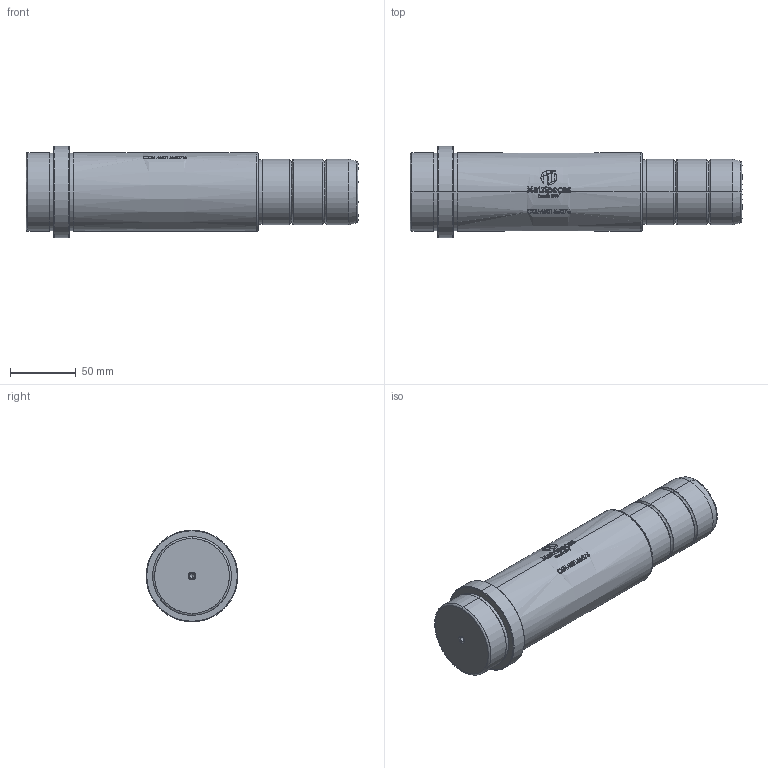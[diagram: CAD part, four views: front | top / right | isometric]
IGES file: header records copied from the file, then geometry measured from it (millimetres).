
Start section: SolidWorks IGES file using analytic representation for surfaces
Global section: file name: E:\1.TRIVECTOR\Clientes\MATRIPEÇAS\PEÇAS_CATALOGO_SITE\6.CGM - COLUNA PRINCIPAL TIPO GUIA (CATÁLOGO)\CGM50156076.IGS; native system: SolidWorks 2024; preprocessor: SolidWorks 2024; author: Gabriel Techio; date: 260911.160338; units: millimetre
Bounding box: 253 x 70 x 70 mm (x, y, z)
Surface area: 53854.5 mm2 (no closed solid volume)
Topology: 0 solids, 0 shells, 515 faces, 6369 edges, 6365 vertices
Faces by surface type: bspline 405, revolution 110
